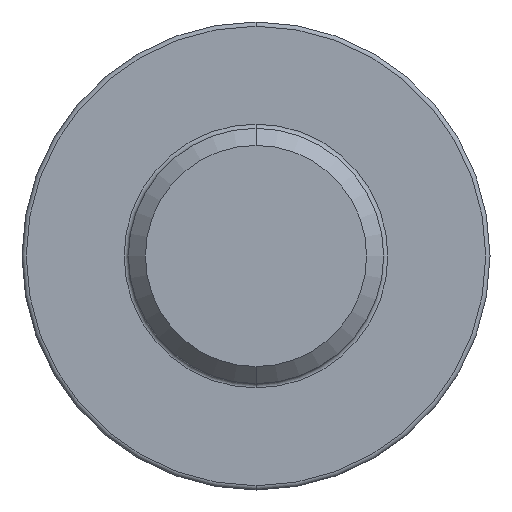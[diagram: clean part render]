
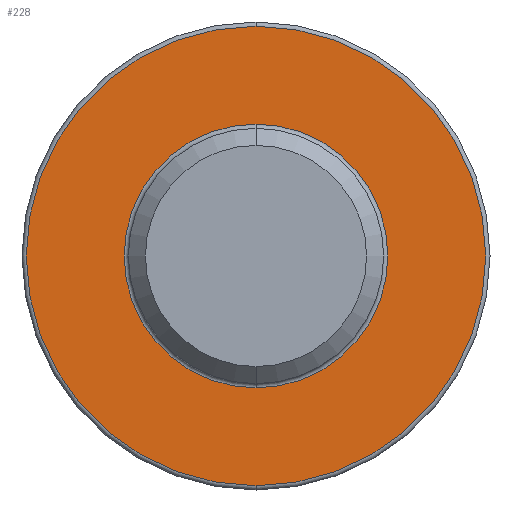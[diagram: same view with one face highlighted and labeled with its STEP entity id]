
A CAD part, front view. The second image highlights one B-rep face of the part: STEP entity #228.
In plain terms, the highlighted planar face has unit normal (0, -1, 0).
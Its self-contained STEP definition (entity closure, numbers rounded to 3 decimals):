
#59 = EDGE_LOOP ( 'NONE', ( #708, #725 ) ) ;
#126 = CIRCLE ( 'NONE', #481, 1.55 ) ;
#128 = AXIS2_PLACEMENT_3D ( 'NONE', #276, #547, #265 ) ;
#146 = DIRECTION ( 'NONE',  ( 0., 0., 1. ) ) ;
#178 = CARTESIAN_POINT ( 'NONE',  ( 0., -1.6, 2.7 ) ) ;
#193 = CARTESIAN_POINT ( 'NONE',  ( 1.5, -1.6, 0. ) ) ;
#202 = CARTESIAN_POINT ( 'NONE',  ( 0., -1.6, 0. ) ) ;
#228 = ADVANCED_FACE ( 'NONE', ( #505, #531 ), #652, .F. ) ;
#265 = DIRECTION ( 'NONE',  ( 0., 0., 1. ) ) ;
#276 = CARTESIAN_POINT ( 'NONE',  ( 0., -1.6, 0. ) ) ;
#321 = DIRECTION ( 'NONE',  ( 0., 0., 1. ) ) ;
#335 = ORIENTED_EDGE ( 'NONE', *, *, #817, .T. ) ;
#378 = VERTEX_POINT ( 'NONE', #540 ) ;
#401 = EDGE_LOOP ( 'NONE', ( #335, #720 ) ) ;
#402 = CARTESIAN_POINT ( 'NONE',  ( 0., -1.6, 0. ) ) ;
#446 = VERTEX_POINT ( 'NONE', #745 ) ;
#460 = VERTEX_POINT ( 'NONE', #836 ) ;
#466 = CIRCLE ( 'NONE', #128, 2.7 ) ;
#474 = DIRECTION ( 'NONE',  ( 0., 0., 1. ) ) ;
#481 = AXIS2_PLACEMENT_3D ( 'NONE', #678, #607, #146 ) ;
#505 = FACE_BOUND ( 'NONE', #59, .T. ) ;
#531 = FACE_OUTER_BOUND ( 'NONE', #401, .T. ) ;
#540 = CARTESIAN_POINT ( 'NONE',  ( 0., -1.6, -1.55 ) ) ;
#547 = DIRECTION ( 'NONE',  ( 0., -1., 0. ) ) ;
#607 = DIRECTION ( 'NONE',  ( 0., 1., 0. ) ) ;
#613 = DIRECTION ( 'NONE',  ( 0., -1., 0. ) ) ;
#633 = AXIS2_PLACEMENT_3D ( 'NONE', #402, #613, #667 ) ;
#645 = AXIS2_PLACEMENT_3D ( 'NONE', #202, #739, #474 ) ;
#646 = CIRCLE ( 'NONE', #633, 2.7 ) ;
#652 = PLANE ( 'NONE',  #676 ) ;
#667 = DIRECTION ( 'NONE',  ( 0., 0., 1. ) ) ;
#676 = AXIS2_PLACEMENT_3D ( 'NONE', #193, #728, #321 ) ;
#678 = CARTESIAN_POINT ( 'NONE',  ( 0., -1.6, 0. ) ) ;
#681 = VERTEX_POINT ( 'NONE', #178 ) ;
#708 = ORIENTED_EDGE ( 'NONE', *, *, #723, .T. ) ;
#720 = ORIENTED_EDGE ( 'NONE', *, *, #845, .T. ) ;
#723 = EDGE_CURVE ( 'NONE', #446, #378, #126, .T. ) ;
#725 = ORIENTED_EDGE ( 'NONE', *, *, #727, .T. ) ;
#727 = EDGE_CURVE ( 'NONE', #378, #446, #743, .T. ) ;
#728 = DIRECTION ( 'NONE',  ( 0., 1., 0. ) ) ;
#739 = DIRECTION ( 'NONE',  ( 0., 1., 0. ) ) ;
#743 = CIRCLE ( 'NONE', #645, 1.55 ) ;
#745 = CARTESIAN_POINT ( 'NONE',  ( 0., -1.6, 1.55 ) ) ;
#817 = EDGE_CURVE ( 'NONE', #681, #460, #646, .T. ) ;
#836 = CARTESIAN_POINT ( 'NONE',  ( 0., -1.6, -2.7 ) ) ;
#845 = EDGE_CURVE ( 'NONE', #460, #681, #466, .T. ) ;
